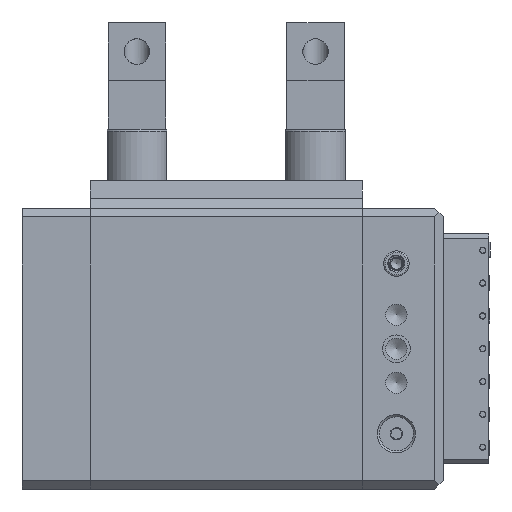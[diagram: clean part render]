
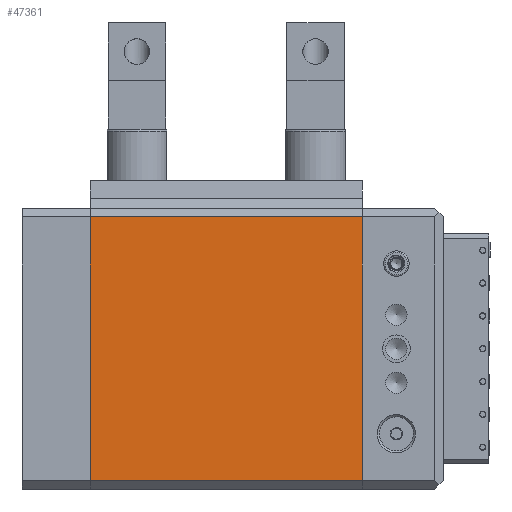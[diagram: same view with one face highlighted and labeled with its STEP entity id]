
A CAD part, left-side view. The second image highlights one B-rep face of the part: STEP entity #47361.
In plain terms, the highlighted planar face has unit normal (-1, 0, 0).
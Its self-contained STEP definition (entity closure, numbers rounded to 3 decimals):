
#2666 = EDGE_CURVE ( 'NONE', #51125, #49777, #69978, .T. ) ;
#11072 = CARTESIAN_POINT ( 'NONE',  ( -29., 30., 31. ) ) ;
#12160 = CARTESIAN_POINT ( 'NONE',  ( -29., 30., 31. ) ) ;
#13313 = VECTOR ( 'NONE', #68797, 1000. ) ;
#16505 = DIRECTION ( 'NONE',  ( 0., 0., 1. ) ) ;
#24283 = DIRECTION ( 'NONE',  ( 1., 0., 0. ) ) ;
#28390 = ORIENTED_EDGE ( 'NONE', *, *, #86900, .T. ) ;
#31212 = AXIS2_PLACEMENT_3D ( 'NONE', #98357, #24283, #16505 ) ;
#31993 = VERTEX_POINT ( 'NONE', #108314 ) ;
#33453 = EDGE_LOOP ( 'NONE', ( #28390, #51631, #47640, #65959 ) ) ;
#33903 = DIRECTION ( 'NONE',  ( 0., 0., -1. ) ) ;
#37834 = VECTOR ( 'NONE', #94040, 1000. ) ;
#41913 = CARTESIAN_POINT ( 'NONE',  ( -29., 30., -33. ) ) ;
#42800 = PLANE ( 'NONE',  #31212 ) ;
#45237 = CARTESIAN_POINT ( 'NONE',  ( -29., 94., -31. ) ) ;
#47361 = ADVANCED_FACE ( 'NONE', ( #107288 ), #42800, .F. ) ;
#47640 = ORIENTED_EDGE ( 'NONE', *, *, #2666, .F. ) ;
#49777 = VERTEX_POINT ( 'NONE', #75322 ) ;
#50933 = EDGE_CURVE ( 'NONE', #73821, #49777, #86848, .T. ) ;
#51125 = VERTEX_POINT ( 'NONE', #12160 ) ;
#51631 = ORIENTED_EDGE ( 'NONE', *, *, #50933, .T. ) ;
#65959 = ORIENTED_EDGE ( 'NONE', *, *, #112405, .T. ) ;
#68797 = DIRECTION ( 'NONE',  ( 0., 0., -1. ) ) ;
#69978 = LINE ( 'NONE', #41913, #13313 ) ;
#73821 = VERTEX_POINT ( 'NONE', #45237 ) ;
#75322 = CARTESIAN_POINT ( 'NONE',  ( -29., 30., -31. ) ) ;
#78724 = CARTESIAN_POINT ( 'NONE',  ( -29., 94., -33. ) ) ;
#86848 = LINE ( 'NONE', #97634, #89071 ) ;
#86900 = EDGE_CURVE ( 'NONE', #31993, #73821, #115709, .T. ) ;
#89071 = VECTOR ( 'NONE', #95275, 1000. ) ;
#92845 = LINE ( 'NONE', #11072, #37834 ) ;
#94040 = DIRECTION ( 'NONE',  ( 0., 1., 0. ) ) ;
#95275 = DIRECTION ( 'NONE',  ( 0., -1., 0. ) ) ;
#97634 = CARTESIAN_POINT ( 'NONE',  ( -29., 30., -31. ) ) ;
#98357 = CARTESIAN_POINT ( 'NONE',  ( -29., 30., -33. ) ) ;
#107288 = FACE_OUTER_BOUND ( 'NONE', #33453, .T. ) ;
#108314 = CARTESIAN_POINT ( 'NONE',  ( -29., 94., 31. ) ) ;
#112405 = EDGE_CURVE ( 'NONE', #51125, #31993, #92845, .T. ) ;
#115634 = VECTOR ( 'NONE', #33903, 1000. ) ;
#115709 = LINE ( 'NONE', #78724, #115634 ) ;
